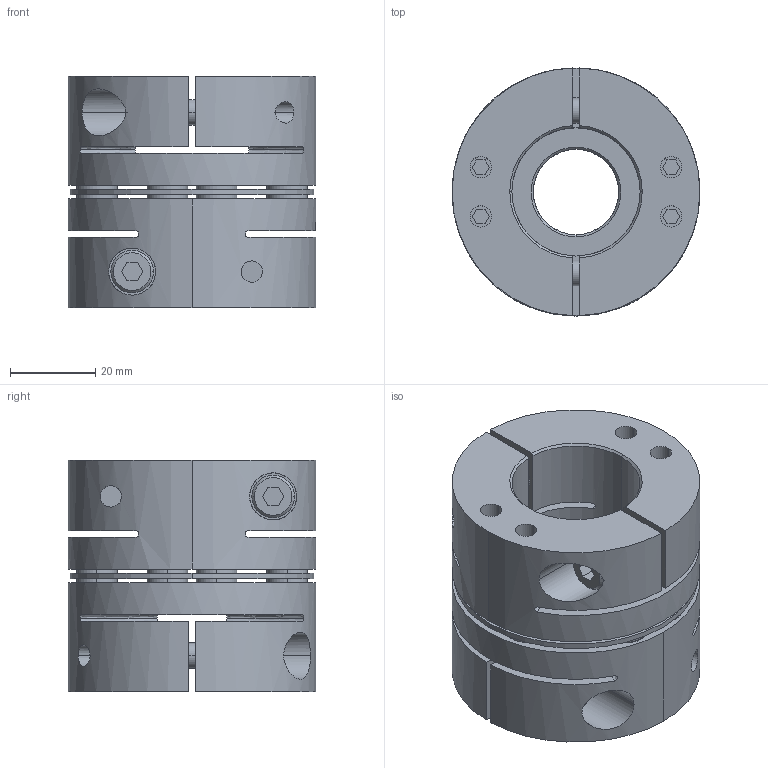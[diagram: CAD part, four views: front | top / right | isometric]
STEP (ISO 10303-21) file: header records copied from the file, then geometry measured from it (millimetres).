
FILE_DESCRIPTION((''),'2;1');
FILE_NAME('TAS-58C-20×30.stp','2022-11-14T22:22:32',(''),(''),'AutoCAD STEP 2000i','AutoCAD 2000i',', , ');
FILE_SCHEMA(('CONFIG_CONTROL_DESIGN'));
Length unit declared in the file: millimetre
Products named in the file (6): TAS-58C-12×22; 忣兜1; TA58C-22; CAP-M6×20; TA58C-12-2; TA58C-12
Assembly tree (7 placements, depth 3):
  TAS-58C-12×22
    忣兜1
    TA58C-22
      CAP-M6×20
    TA58C-12-2
      CAP-M6×20
    TA58C-12
      CAP-M6×20
Bounding box: 58 x 58 x 54.25 mm (x, y, z)
Volume: 96521.9 mm3; surface area: 40886.5 mm2
Topology: 1 solids, 1 shells, 360 faces, 894 edges, 628 vertices
Faces by surface type: plane 160, cylinder 148, cone 36, bspline 16
Entity records: 12805 total; most frequent: CARTESIAN_POINT 3832, DIRECTION 1922, ORIENTED_EDGE 1720, EDGE_CURVE 860, AXIS2_PLACEMENT_3D 732, VERTEX_POINT 564, EDGE_LOOP 464, VECTOR 458
